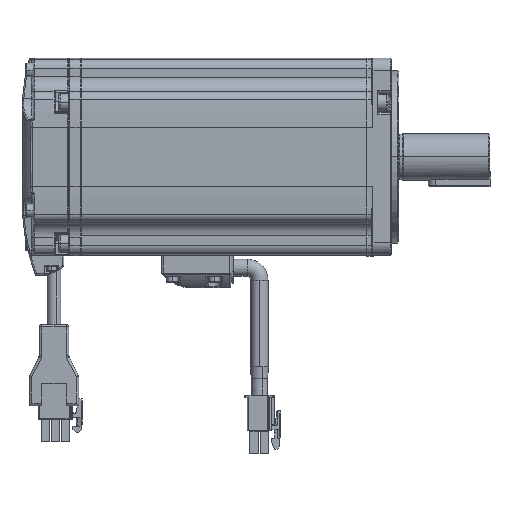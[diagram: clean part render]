
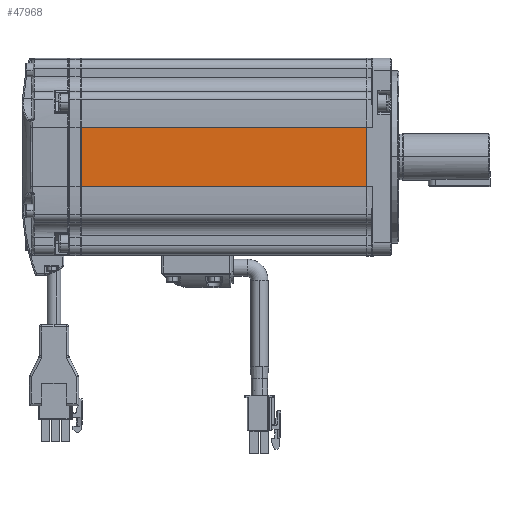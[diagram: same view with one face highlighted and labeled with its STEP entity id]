
A CAD part, top view. The second image highlights one B-rep face of the part: STEP entity #47968.
In plain terms, the highlighted planar face has unit normal (0, 0, 1).
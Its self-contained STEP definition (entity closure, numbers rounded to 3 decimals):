
#2390 = DIRECTION ( 'NONE',  ( 0., -1., 0. ) ) ;
#4681 = VECTOR ( 'NONE', #34110, 1000. ) ;
#6651 = EDGE_CURVE ( 'NONE', #44060, #51925, #70670, .T. ) ;
#7998 = CARTESIAN_POINT ( 'NONE',  ( -163.03, -7.254, 40. ) ) ;
#9430 = CARTESIAN_POINT ( 'NONE',  ( -162.53, -7.254, 40. ) ) ;
#14790 = CARTESIAN_POINT ( 'NONE',  ( -162.53, 16.746, 40. ) ) ;
#16004 = ORIENTED_EDGE ( 'NONE', *, *, #6651, .F. ) ;
#16196 = CARTESIAN_POINT ( 'NONE',  ( -163.03, 16.746, 40. ) ) ;
#18013 = DIRECTION ( 'NONE',  ( 0., 0., -1. ) ) ;
#18042 = CARTESIAN_POINT ( 'NONE',  ( -46.53, -7.254, 40. ) ) ;
#19657 = ORIENTED_EDGE ( 'NONE', *, *, #22251, .T. ) ;
#21451 = ORIENTED_EDGE ( 'NONE', *, *, #32863, .T. ) ;
#22251 = EDGE_CURVE ( 'NONE', #63231, #51925, #52046, .T. ) ;
#22261 = VECTOR ( 'NONE', #2390, 1000. ) ;
#28354 = LINE ( 'NONE', #67399, #22261 ) ;
#28908 = DIRECTION ( 'NONE',  ( 0., -1., 0. ) ) ;
#32863 = EDGE_CURVE ( 'NONE', #45243, #63231, #46850, .T. ) ;
#34110 = DIRECTION ( 'NONE',  ( 0., 1., 0. ) ) ;
#34668 = CARTESIAN_POINT ( 'NONE',  ( -163.03, 4.746, 40. ) ) ;
#39721 = PLANE ( 'NONE',  #60089 ) ;
#44060 = VERTEX_POINT ( 'NONE', #14790 ) ;
#45243 = VERTEX_POINT ( 'NONE', #9430 ) ;
#45750 = VECTOR ( 'NONE', #60740, 1000. ) ;
#46850 = LINE ( 'NONE', #7998, #70098 ) ;
#47968 = ADVANCED_FACE ( 'NONE', ( #52099 ), #39721, .F. ) ;
#51925 = VERTEX_POINT ( 'NONE', #58051 ) ;
#52046 = LINE ( 'NONE', #61528, #4681 ) ;
#52099 = FACE_OUTER_BOUND ( 'NONE', #57850, .T. ) ;
#52562 = ORIENTED_EDGE ( 'NONE', *, *, #63269, .T. ) ;
#57850 = EDGE_LOOP ( 'NONE', ( #16004, #52562, #21451, #19657 ) ) ;
#58051 = CARTESIAN_POINT ( 'NONE',  ( -46.53, 16.746, 40. ) ) ;
#60089 = AXIS2_PLACEMENT_3D ( 'NONE', #34668, #18013, #28908 ) ;
#60740 = DIRECTION ( 'NONE',  ( 1., 0., 0. ) ) ;
#61528 = CARTESIAN_POINT ( 'NONE',  ( -46.53, 4.746, 40. ) ) ;
#62814 = DIRECTION ( 'NONE',  ( 1., 0., 0. ) ) ;
#63231 = VERTEX_POINT ( 'NONE', #18042 ) ;
#63269 = EDGE_CURVE ( 'NONE', #44060, #45243, #28354, .T. ) ;
#67399 = CARTESIAN_POINT ( 'NONE',  ( -162.53, 4.746, 40. ) ) ;
#70098 = VECTOR ( 'NONE', #62814, 1000. ) ;
#70670 = LINE ( 'NONE', #16196, #45750 ) ;
